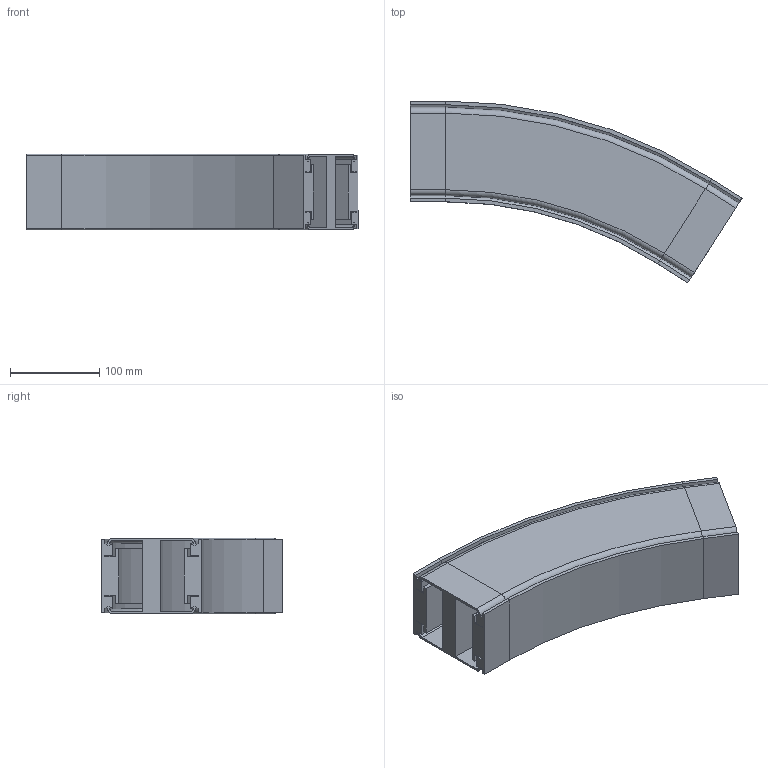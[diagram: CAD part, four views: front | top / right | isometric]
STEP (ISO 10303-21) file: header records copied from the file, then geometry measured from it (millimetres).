
FILE_DESCRIPTION (( 'STEP AP214' ), '1' );
FILE_NAME ('VC.85 Verticale bochtsectie.R500 32,5.STEP', '2017-02-08T08:13:16', ( '' ), ( '' ), 'SwSTEP 2.0', 'SolidWorks 2016', '' );
FILE_SCHEMA (( 'AUTOMOTIVE_DESIGN' ));
Length unit declared in the file: millimetre
Products named in the file (1): VC.85 Verticale bochtsectie.R500 32,5
Bounding box: 372.74 x 203.95 x 85 mm (x, y, z)
Volume: 1733404.8 mm3; surface area: 405405.5 mm2
Topology: 1 solids, 1 shells, 206 faces, 476 edges, 272 vertices
Faces by surface type: plane 144, cylinder 46, cone 8, torus 8
Entity records: 5674 total; most frequent: DIRECTION 990, CARTESIAN_POINT 955, ORIENTED_EDGE 952, EDGE_CURVE 476, LINE 376, VECTOR 376, AXIS2_PLACEMENT_3D 307, VERTEX_POINT 272
